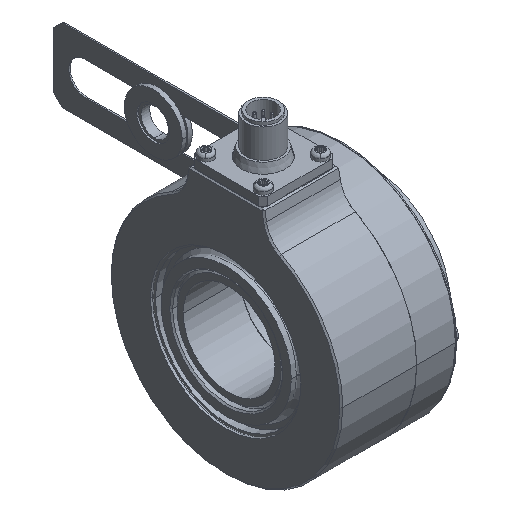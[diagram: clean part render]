
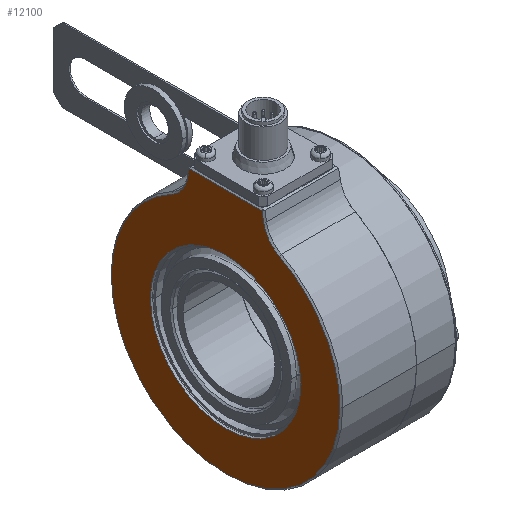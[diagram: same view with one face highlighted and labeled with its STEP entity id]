
A CAD part, isometric view. The second image highlights one B-rep face of the part: STEP entity #12100.
In plain terms, the highlighted planar face has unit normal (-1, 0, 0).
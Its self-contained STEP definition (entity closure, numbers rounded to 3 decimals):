
#5 = ORIENTED_EDGE ( 'NONE', *, *, #1550, .T. ) ;
#41 = EDGE_CURVE ( 'NONE', #20702, #22588, #23457, .T. ) ;
#66 = AXIS2_PLACEMENT_3D ( 'NONE', #7910, #20442, #12322 ) ;
#74 = CIRCLE ( 'NONE', #15486, 39.5 ) ;
#105 = EDGE_CURVE ( 'NONE', #25251, #23713, #3671, .T. ) ;
#551 = DIRECTION ( 'NONE',  ( 1., 0., 0. ) ) ;
#584 = VERTEX_POINT ( 'NONE', #7680 ) ;
#643 = DIRECTION ( 'NONE',  ( 1., 0., 0. ) ) ;
#666 = EDGE_CURVE ( 'NONE', #17798, #20702, #4142, .T. ) ;
#1179 = ORIENTED_EDGE ( 'NONE', *, *, #10476, .T. ) ;
#1550 = EDGE_CURVE ( 'NONE', #9510, #584, #15959, .T. ) ;
#1710 = CARTESIAN_POINT ( 'NONE',  ( -26., 0., 0. ) ) ;
#2034 = CARTESIAN_POINT ( 'NONE',  ( -26., 18.551, 34.873 ) ) ;
#2350 = CARTESIAN_POINT ( 'NONE',  ( -26., 0., 0. ) ) ;
#2614 = DIRECTION ( 'NONE',  ( 0., -1., 0. ) ) ;
#3049 = ORIENTED_EDGE ( 'NONE', *, *, #3959, .T. ) ;
#3086 = FACE_OUTER_BOUND ( 'NONE', #14725, .T. ) ;
#3394 = CARTESIAN_POINT ( 'NONE',  ( -26., 0., 0. ) ) ;
#3481 = CARTESIAN_POINT ( 'NONE',  ( -26., -39.5, 0. ) ) ;
#3659 = DIRECTION ( 'NONE',  ( 0., -1., 0. ) ) ;
#3671 = CIRCLE ( 'NONE', #9845, 26. ) ;
#3959 = EDGE_CURVE ( 'NONE', #4357, #15904, #74, .T. ) ;
#4142 = CIRCLE ( 'NONE', #11207, 10.5 ) ;
#4345 = AXIS2_PLACEMENT_3D ( 'NONE', #17467, #643, #19524 ) ;
#4357 = VERTEX_POINT ( 'NONE', #3481 ) ;
#4415 = CARTESIAN_POINT ( 'NONE',  ( -26., 0., 0. ) ) ;
#4625 = DIRECTION ( 'NONE',  ( -1., 0., 0. ) ) ;
#4812 = EDGE_LOOP ( 'NONE', ( #27133, #20208 ) ) ;
#4959 = DIRECTION ( 'NONE',  ( -1., 0., 0. ) ) ;
#5430 = ORIENTED_EDGE ( 'NONE', *, *, #10927, .T. ) ;
#5527 = LINE ( 'NONE', #25921, #22883 ) ;
#6549 = DIRECTION ( 'NONE',  ( 0., -1., 0. ) ) ;
#6558 = LINE ( 'NONE', #23213, #17836 ) ;
#7344 = ORIENTED_EDGE ( 'NONE', *, *, #41, .T. ) ;
#7634 = AXIS2_PLACEMENT_3D ( 'NONE', #2350, #4959, #2614 ) ;
#7640 = CARTESIAN_POINT ( 'NONE',  ( -26., -12.58, 45.5 ) ) ;
#7680 = CARTESIAN_POINT ( 'NONE',  ( -26., 12.58, 45.5 ) ) ;
#7910 = CARTESIAN_POINT ( 'NONE',  ( -26., 0., 0. ) ) ;
#8300 = CARTESIAN_POINT ( 'NONE',  ( -26., 39.5, 0. ) ) ;
#8328 = CIRCLE ( 'NONE', #4345, 10.5 ) ;
#8368 = DIRECTION ( 'NONE',  ( 0., 0.174, -0.985 ) ) ;
#8842 = CARTESIAN_POINT ( 'NONE',  ( -26., 40., 45.5 ) ) ;
#9226 = CARTESIAN_POINT ( 'NONE',  ( -26., 26., 0. ) ) ;
#9510 = VERTEX_POINT ( 'NONE', #7640 ) ;
#9845 = AXIS2_PLACEMENT_3D ( 'NONE', #4415, #551, #17372 ) ;
#10476 = EDGE_CURVE ( 'NONE', #15904, #22272, #8328, .T. ) ;
#10606 = AXIS2_PLACEMENT_3D ( 'NONE', #3394, #22514, #25247 ) ;
#10927 = EDGE_CURVE ( 'NONE', #22272, #9510, #5527, .T. ) ;
#11207 = AXIS2_PLACEMENT_3D ( 'NONE', #21434, #25555, #6549 ) ;
#12100 = ADVANCED_FACE ( 'NONE', ( #3086, #26097 ), #24024, .T. ) ;
#12322 = DIRECTION ( 'NONE',  ( 0., 1., 0. ) ) ;
#13316 = ORIENTED_EDGE ( 'NONE', *, *, #666, .T. ) ;
#13357 = ORIENTED_EDGE ( 'NONE', *, *, #20115, .T. ) ;
#14725 = EDGE_LOOP ( 'NONE', ( #5430, #5, #27232, #13316, #7344, #13357, #3049, #1179 ) ) ;
#15486 = AXIS2_PLACEMENT_3D ( 'NONE', #1710, #16341, #3659 ) ;
#15731 = VECTOR ( 'NONE', #17750, 1000. ) ;
#15904 = VERTEX_POINT ( 'NONE', #26101 ) ;
#15959 = LINE ( 'NONE', #8842, #15731 ) ;
#16341 = DIRECTION ( 'NONE',  ( -1., 0., 0. ) ) ;
#17372 = DIRECTION ( 'NONE',  ( 0., 1., 0. ) ) ;
#17467 = CARTESIAN_POINT ( 'NONE',  ( -26., -23.482, 44.143 ) ) ;
#17750 = DIRECTION ( 'NONE',  ( 0., 1., 0. ) ) ;
#17798 = VERTEX_POINT ( 'NONE', #26583 ) ;
#17807 = DIRECTION ( 'NONE',  ( 0., 0.174, 0.985 ) ) ;
#17836 = VECTOR ( 'NONE', #8368, 1000. ) ;
#19524 = DIRECTION ( 'NONE',  ( 0., -1., 0. ) ) ;
#20115 = EDGE_CURVE ( 'NONE', #22588, #4357, #22875, .T. ) ;
#20208 = ORIENTED_EDGE ( 'NONE', *, *, #21411, .T. ) ;
#20442 = DIRECTION ( 'NONE',  ( 1., 0., 0. ) ) ;
#20702 = VERTEX_POINT ( 'NONE', #2034 ) ;
#21411 = EDGE_CURVE ( 'NONE', #23713, #25251, #23365, .T. ) ;
#21433 = DIRECTION ( 'NONE',  ( 0., -1., 0. ) ) ;
#21434 = CARTESIAN_POINT ( 'NONE',  ( -26., 23.482, 44.143 ) ) ;
#22272 = VERTEX_POINT ( 'NONE', #25260 ) ;
#22514 = DIRECTION ( 'NONE',  ( -1., 0., 0. ) ) ;
#22527 = AXIS2_PLACEMENT_3D ( 'NONE', #23477, #4625, #21433 ) ;
#22588 = VERTEX_POINT ( 'NONE', #8300 ) ;
#22875 = CIRCLE ( 'NONE', #10606, 39.5 ) ;
#22883 = VECTOR ( 'NONE', #17807, 1000. ) ;
#23213 = CARTESIAN_POINT ( 'NONE',  ( -26., 21.188, -3.317 ) ) ;
#23365 = CIRCLE ( 'NONE', #66, 26. ) ;
#23457 = CIRCLE ( 'NONE', #7634, 39.5 ) ;
#23477 = CARTESIAN_POINT ( 'NONE',  ( -26., 40., 0. ) ) ;
#23713 = VERTEX_POINT ( 'NONE', #26106 ) ;
#24024 = PLANE ( 'NONE',  #22527 ) ;
#25247 = DIRECTION ( 'NONE',  ( 0., -1., 0. ) ) ;
#25251 = VERTEX_POINT ( 'NONE', #9226 ) ;
#25260 = CARTESIAN_POINT ( 'NONE',  ( -26., -13.141, 42.32 ) ) ;
#25555 = DIRECTION ( 'NONE',  ( 1., 0., 0. ) ) ;
#25645 = EDGE_CURVE ( 'NONE', #584, #17798, #6558, .T. ) ;
#25921 = CARTESIAN_POINT ( 'NONE',  ( -26., -18.776, 10.364 ) ) ;
#26097 = FACE_BOUND ( 'NONE', #4812, .T. ) ;
#26101 = CARTESIAN_POINT ( 'NONE',  ( -26., -18.551, 34.873 ) ) ;
#26106 = CARTESIAN_POINT ( 'NONE',  ( -26., -26., 0. ) ) ;
#26583 = CARTESIAN_POINT ( 'NONE',  ( -26., 13.141, 42.32 ) ) ;
#27133 = ORIENTED_EDGE ( 'NONE', *, *, #105, .T. ) ;
#27232 = ORIENTED_EDGE ( 'NONE', *, *, #25645, .T. ) ;
